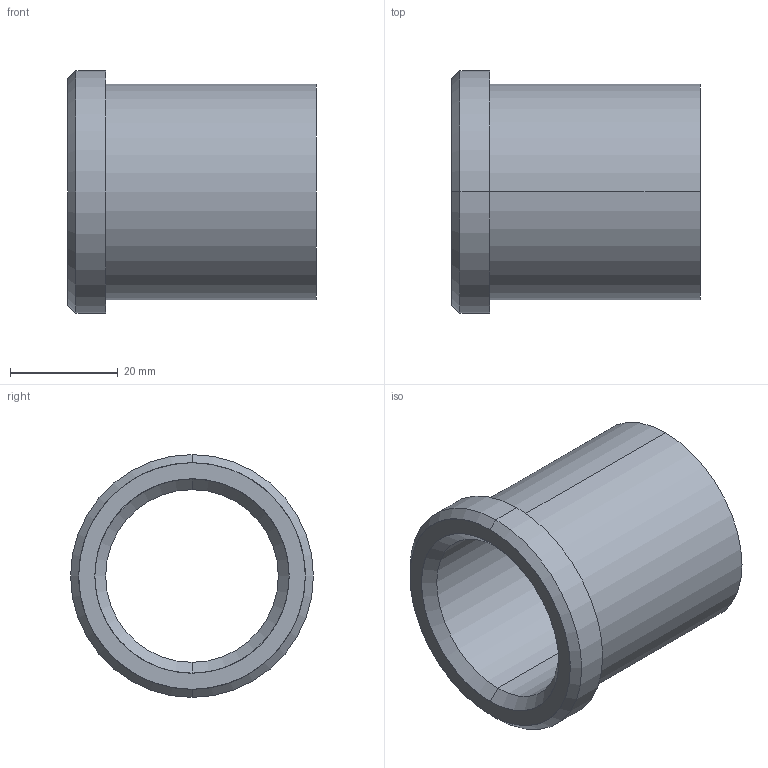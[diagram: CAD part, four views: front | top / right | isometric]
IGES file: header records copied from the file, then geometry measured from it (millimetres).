
Start section: START RECORD GO HERE.
Global section: file name: 353-32X46.igs; native system: DASSAULT SYSTEMES CATIA V5 R20 - www.3ds.com; preprocessor: CATIA Version 5 Release 20 ; author: Utente; organization: NB04-ASUS; date: 20210512.205702; units: millimetre
Bounding box: 46 x 45 x 45 mm (x, y, z)
Surface area: 11763 mm2 (no closed solid volume)
Topology: 0 solids, 0 shells, 15 faces, 96 edges, 96 vertices
Faces by surface type: revolution 12, plane 3
